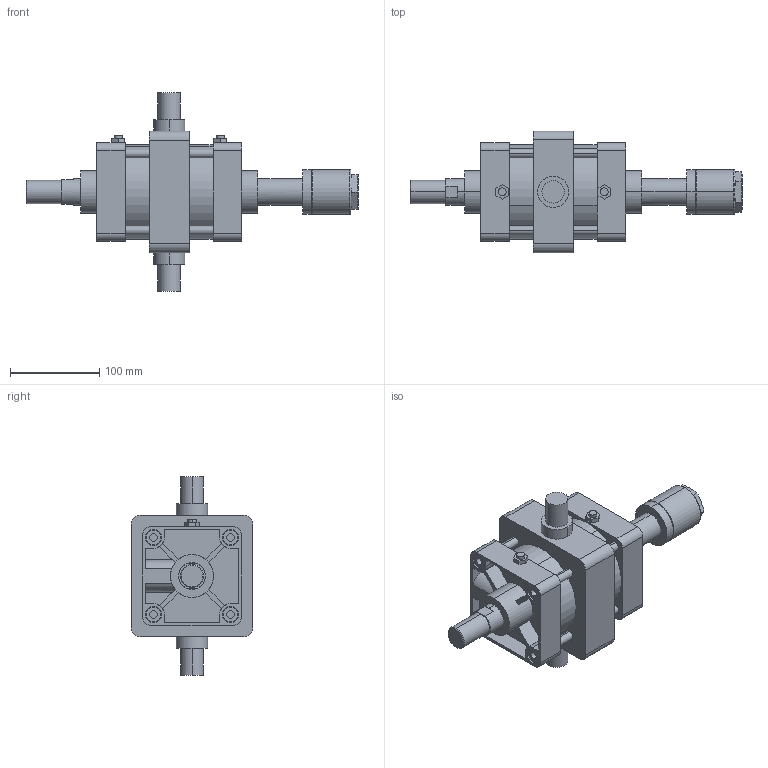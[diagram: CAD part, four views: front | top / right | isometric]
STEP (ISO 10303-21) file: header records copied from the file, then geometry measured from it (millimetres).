
FILE_DESCRIPTION (( 'STEP AP203' ), '1' );
FILE_NAME ('KGA7-100#-50-T.STEP', '2016-04-14T07:56:22', ( '' ), ( '' ), 'SwSTEP 2.0', 'SolidWorks 2014', '' );
FILE_SCHEMA (( 'CONFIG_CONTROL_DESIGN' ));
Length unit declared in the file: millimetre
Products named in the file (9): KGA7-100-Turn; K-100-T; K#7-100-50-After; KGLH2-100-50; KGA7-100#-50-T
Assembly tree (18 placements, depth 2):
  KGA7-100#-50-T
    K#7-100-50-After
    KGLH2-100-50
    (unnamed)
    (unnamed)  x4
    (unnamed)  x8
    K-100-T
    KGA7-100-Turn
    (unnamed)
Bounding box: 371 x 136 x 222 mm (x, y, z)
Volume: 2136852.8 mm3; surface area: 307882.7 mm2
Topology: 18 solids, 18 shells, 388 faces, 905 edges, 578 vertices
Faces by surface type: plane 161, cylinder 153, torus 46, cone 28
Entity records: 10247 total; most frequent: CARTESIAN_POINT 1814, DIRECTION 1605, ORIENTED_EDGE 1430, EDGE_CURVE 715, AXIS2_PLACEMENT_3D 617, VERTEX_POINT 468, VECTOR 371, LINE 371
